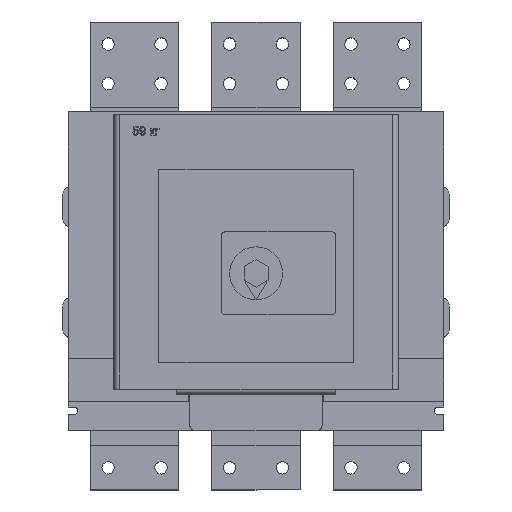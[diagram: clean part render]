
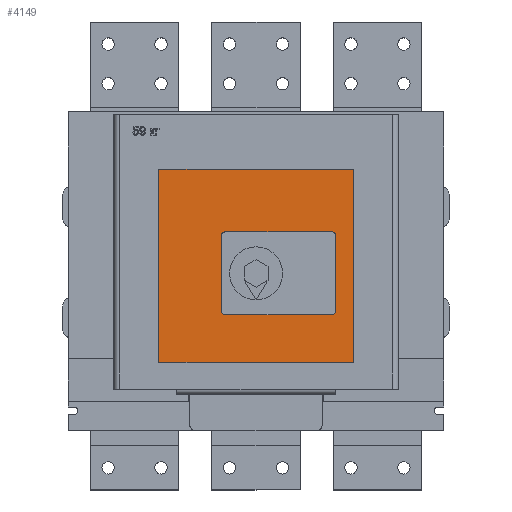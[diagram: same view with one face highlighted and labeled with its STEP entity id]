
A CAD part, top view. The second image highlights one B-rep face of the part: STEP entity #4149.
In plain terms, the highlighted planar face has unit normal (0, 0, 1).
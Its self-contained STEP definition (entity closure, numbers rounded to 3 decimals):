
#222 = CARTESIAN_POINT ( 'NONE',  ( 322.6, 296., 266.8 ) ) ;
#411 = EDGE_CURVE ( 'NONE', #3437, #6345, #3907, .T. ) ;
#436 = ORIENTED_EDGE ( 'NONE', *, *, #7665, .F. ) ;
#447 = VERTEX_POINT ( 'NONE', #7374 ) ;
#699 = DIRECTION ( 'NONE',  ( 1., 0., 0. ) ) ;
#701 = CARTESIAN_POINT ( 'NONE',  ( 298.1, 136., 266.8 ) ) ;
#716 = DIRECTION ( 'NONE',  ( 0., 0., 1. ) ) ;
#825 = DIRECTION ( 'NONE',  ( 0., 1., 0. ) ) ;
#974 = CARTESIAN_POINT ( 'NONE',  ( 0., 0., 266.8 ) ) ;
#1014 = PLANE ( 'NONE',  #2908 ) ;
#1054 = CARTESIAN_POINT ( 'NONE',  ( 102.6, 77., 266.8 ) ) ;
#1068 = CIRCLE ( 'NONE', #5857, 5. ) ;
#1304 = VERTEX_POINT ( 'NONE', #222 ) ;
#1328 = AXIS2_PLACEMENT_3D ( 'NONE', #3470, #3451, #3436 ) ;
#1473 = DIRECTION ( 'NONE',  ( 1., 0., 0. ) ) ;
#1589 = LINE ( 'NONE', #6103, #9441 ) ;
#1642 = CIRCLE ( 'NONE', #7294, 5. ) ;
#1789 = AXIS2_PLACEMENT_3D ( 'NONE', #9704, #9740, #9748 ) ;
#1843 = CARTESIAN_POINT ( 'NONE',  ( 178.1, 225., 266.8 ) ) ;
#1875 = DIRECTION ( 'NONE',  ( 0., -1., 0. ) ) ;
#1912 = VECTOR ( 'NONE', #4545, 1000. ) ;
#2161 = LINE ( 'NONE', #3965, #1912 ) ;
#2166 = LINE ( 'NONE', #2583, #5774 ) ;
#2211 = DIRECTION ( 'NONE',  ( -1., 0., 0. ) ) ;
#2410 = CARTESIAN_POINT ( 'NONE',  ( 322.6, 77., 266.8 ) ) ;
#2583 = CARTESIAN_POINT ( 'NONE',  ( 303.1, 136., 266.8 ) ) ;
#2636 = EDGE_CURVE ( 'NONE', #5824, #3437, #9703, .T. ) ;
#2698 = FACE_OUTER_BOUND ( 'NONE', #4556, .T. ) ;
#2730 = DIRECTION ( 'NONE',  ( 0., 1., 0. ) ) ;
#2754 = ORIENTED_EDGE ( 'NONE', *, *, #411, .F. ) ;
#2783 = ORIENTED_EDGE ( 'NONE', *, *, #5283, .F. ) ;
#2852 = ORIENTED_EDGE ( 'NONE', *, *, #2636, .F. ) ;
#2908 = AXIS2_PLACEMENT_3D ( 'NONE', #974, #716, #699 ) ;
#3234 = VECTOR ( 'NONE', #1875, 1000. ) ;
#3350 = ORIENTED_EDGE ( 'NONE', *, *, #4337, .F. ) ;
#3384 = CARTESIAN_POINT ( 'NONE',  ( 303.1, 220., 266.8 ) ) ;
#3436 = DIRECTION ( 'NONE',  ( 1., 0., 0. ) ) ;
#3437 = VERTEX_POINT ( 'NONE', #7616 ) ;
#3451 = DIRECTION ( 'NONE',  ( 0., 0., 1. ) ) ;
#3470 = CARTESIAN_POINT ( 'NONE',  ( 298.1, 220., 266.8 ) ) ;
#3600 = VECTOR ( 'NONE', #6149, 1000. ) ;
#3666 = CARTESIAN_POINT ( 'NONE',  ( 298.1, 225., 266.8 ) ) ;
#3709 = ORIENTED_EDGE ( 'NONE', *, *, #3942, .F. ) ;
#3880 = CARTESIAN_POINT ( 'NONE',  ( 102.6, 296., 266.8 ) ) ;
#3907 = LINE ( 'NONE', #8794, #7904 ) ;
#3942 = EDGE_CURVE ( 'NONE', #5519, #447, #1068, .T. ) ;
#3965 = CARTESIAN_POINT ( 'NONE',  ( 322.6, 296., 266.8 ) ) ;
#4013 = ORIENTED_EDGE ( 'NONE', *, *, #5417, .F. ) ;
#4149 = ADVANCED_FACE ( 'NONE', ( #8977, #2698 ), #1014, .T. ) ;
#4239 = DIRECTION ( 'NONE',  ( 0., 0., 1. ) ) ;
#4262 = DIRECTION ( 'NONE',  ( 1., 0., 0. ) ) ;
#4329 = CARTESIAN_POINT ( 'NONE',  ( 178.1, 220., 266.8 ) ) ;
#4337 = EDGE_CURVE ( 'NONE', #447, #5824, #1589, .T. ) ;
#4545 = DIRECTION ( 'NONE',  ( -1., 0., 0. ) ) ;
#4556 = EDGE_LOOP ( 'NONE', ( #7483, #8434, #9495, #9034 ) ) ;
#4675 = EDGE_LOOP ( 'NONE', ( #2783, #4013, #436, #2754, #2852, #3350, #3709, #5169 ) ) ;
#4942 = VERTEX_POINT ( 'NONE', #7051 ) ;
#5074 = DIRECTION ( 'NONE',  ( 1., 0., 0. ) ) ;
#5169 = ORIENTED_EDGE ( 'NONE', *, *, #7607, .F. ) ;
#5229 = VERTEX_POINT ( 'NONE', #3880 ) ;
#5283 = EDGE_CURVE ( 'NONE', #9386, #7486, #6950, .T. ) ;
#5322 = VECTOR ( 'NONE', #825, 1000. ) ;
#5417 = EDGE_CURVE ( 'NONE', #4942, #9386, #2166, .T. ) ;
#5519 = VERTEX_POINT ( 'NONE', #1843 ) ;
#5774 = VECTOR ( 'NONE', #2730, 1000. ) ;
#5824 = VERTEX_POINT ( 'NONE', #6309 ) ;
#5857 = AXIS2_PLACEMENT_3D ( 'NONE', #4329, #4239, #4262 ) ;
#5873 = LINE ( 'NONE', #9136, #3600 ) ;
#5913 = EDGE_CURVE ( 'NONE', #1304, #5229, #2161, .T. ) ;
#5975 = LINE ( 'NONE', #7527, #7739 ) ;
#5994 = VERTEX_POINT ( 'NONE', #7698 ) ;
#5998 = DIRECTION ( 'NONE',  ( 0., -1., 0. ) ) ;
#6022 = EDGE_CURVE ( 'NONE', #9160, #1304, #7280, .T. ) ;
#6103 = CARTESIAN_POINT ( 'NONE',  ( 173.1, 220., 266.8 ) ) ;
#6107 = DIRECTION ( 'NONE',  ( 0., 0., 1. ) ) ;
#6149 = DIRECTION ( 'NONE',  ( 1., 0., 0. ) ) ;
#6309 = CARTESIAN_POINT ( 'NONE',  ( 173.1, 136., 266.8 ) ) ;
#6345 = VERTEX_POINT ( 'NONE', #7941 ) ;
#6803 = EDGE_CURVE ( 'NONE', #5994, #9160, #5873, .T. ) ;
#6950 = CIRCLE ( 'NONE', #1328, 5. ) ;
#7051 = CARTESIAN_POINT ( 'NONE',  ( 303.1, 136., 266.8 ) ) ;
#7177 = EDGE_CURVE ( 'NONE', #5229, #5994, #9031, .T. ) ;
#7280 = LINE ( 'NONE', #8447, #5322 ) ;
#7294 = AXIS2_PLACEMENT_3D ( 'NONE', #701, #6107, #1473 ) ;
#7374 = CARTESIAN_POINT ( 'NONE',  ( 173.1, 220., 266.8 ) ) ;
#7483 = ORIENTED_EDGE ( 'NONE', *, *, #6022, .T. ) ;
#7486 = VERTEX_POINT ( 'NONE', #3666 ) ;
#7527 = CARTESIAN_POINT ( 'NONE',  ( 298.1, 225., 266.8 ) ) ;
#7607 = EDGE_CURVE ( 'NONE', #7486, #5519, #5975, .T. ) ;
#7616 = CARTESIAN_POINT ( 'NONE',  ( 178.1, 131., 266.8 ) ) ;
#7665 = EDGE_CURVE ( 'NONE', #6345, #4942, #1642, .T. ) ;
#7698 = CARTESIAN_POINT ( 'NONE',  ( 102.6, 77., 266.8 ) ) ;
#7739 = VECTOR ( 'NONE', #2211, 1000. ) ;
#7904 = VECTOR ( 'NONE', #5074, 1000. ) ;
#7941 = CARTESIAN_POINT ( 'NONE',  ( 298.1, 131., 266.8 ) ) ;
#8434 = ORIENTED_EDGE ( 'NONE', *, *, #5913, .T. ) ;
#8447 = CARTESIAN_POINT ( 'NONE',  ( 322.6, 77., 266.8 ) ) ;
#8794 = CARTESIAN_POINT ( 'NONE',  ( 178.1, 131., 266.8 ) ) ;
#8977 = FACE_BOUND ( 'NONE', #4675, .T. ) ;
#9031 = LINE ( 'NONE', #1054, #3234 ) ;
#9034 = ORIENTED_EDGE ( 'NONE', *, *, #6803, .T. ) ;
#9136 = CARTESIAN_POINT ( 'NONE',  ( 322.6, 77., 266.8 ) ) ;
#9160 = VERTEX_POINT ( 'NONE', #2410 ) ;
#9386 = VERTEX_POINT ( 'NONE', #3384 ) ;
#9441 = VECTOR ( 'NONE', #5998, 1000. ) ;
#9495 = ORIENTED_EDGE ( 'NONE', *, *, #7177, .T. ) ;
#9703 = CIRCLE ( 'NONE', #1789, 5. ) ;
#9704 = CARTESIAN_POINT ( 'NONE',  ( 178.1, 136., 266.8 ) ) ;
#9740 = DIRECTION ( 'NONE',  ( 0., 0., 1. ) ) ;
#9748 = DIRECTION ( 'NONE',  ( 1., 0., 0. ) ) ;
